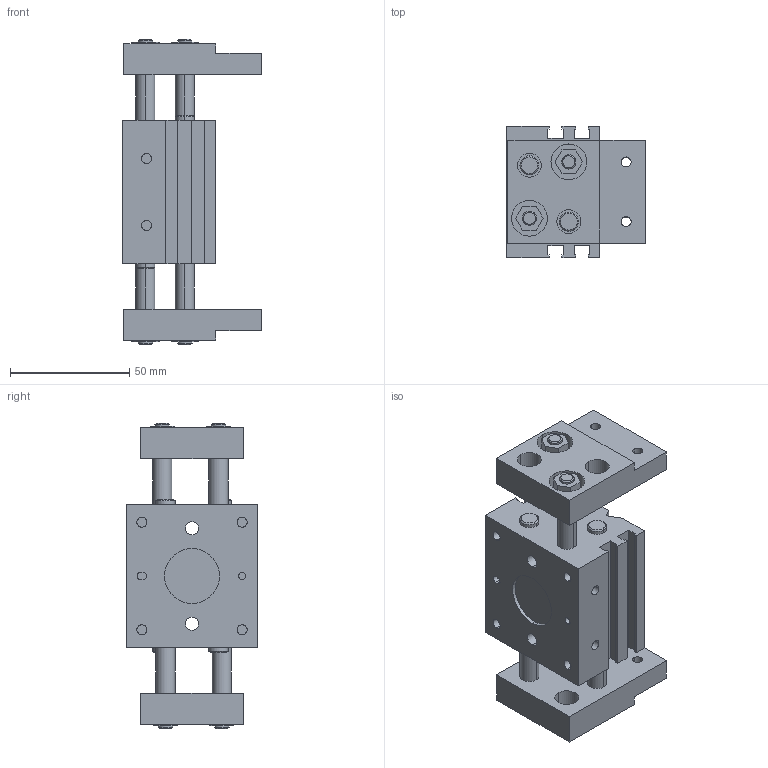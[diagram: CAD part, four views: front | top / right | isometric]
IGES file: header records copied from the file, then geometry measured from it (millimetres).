
Global section: file name: No Iges File Name specified; native system: AutoDesk Inventor R11.0; preprocessor: AutoDesk Inventor Iges Exporter R11.0; author: No Author specified; organization: No Organization specified; date: 20070224.105421; units: millimetre
Bounding box: 58 x 55 x 128 mm (x, y, z)
Volume: 171323.6 mm3; surface area: 53318.9 mm2
Topology: 3 solids, 3 shells, 203 faces, 494 edges, 324 vertices
Faces by surface type: plane 101, bspline 56, cylinder 16, cone 16, revolution 14
